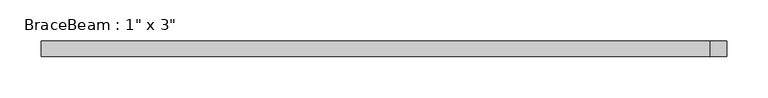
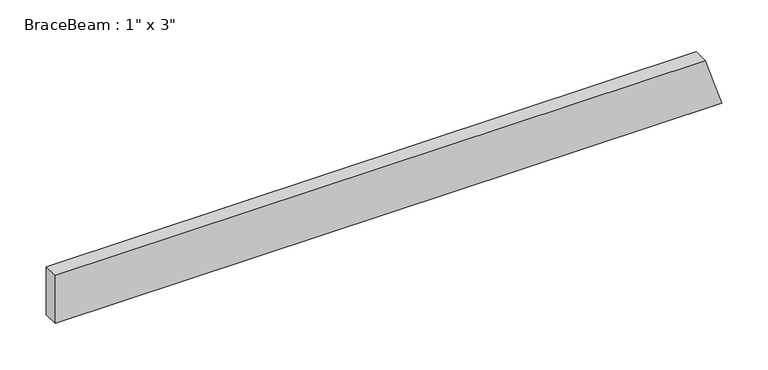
"""IFC4 building model written with IfcOpenShell, lengths in millimetres: beam geometry."""

from ifc_helpers import new_model, si_unit, origin, place, context, project, spatial, faceted_brep, source, transform, mapped, element, save


def beam_464ecb02(model_context):
    return source(origin(), model_context, "Body", "Brep", [
        faceted_brep([(-411.2393097, 9.525, -31.75), (419.9537872, 9.525, -31.75), (419.9537872, -9.525, -31.75), (-411.2393097, -9.525, -31.75), (409.59094, -9.525, 0.0), (399.2280927, -9.525, 31.75), (-411.2393097, -9.525, 31.75), (399.2280927, 9.525, 31.75), (-411.2393097, 9.525, 31.75), (409.59094, 9.525, 0.0)], [[[0, 1, 2, 3]], [[3, 2, 4, 5, 6]], [[6, 5, 7, 8]], [[8, 7, 9, 1, 0]], [[8, 0, 3, 6]], [[5, 4, 2, 1, 9, 7]]]),
    ])


if __name__ == "__main__":
    model = new_model("IFC4")
    model_context = context("Model", 3, world=origin())
    ifc_project = project(units=[si_unit("LENGTHUNIT", "METRE", prefix="MILLI")], contexts=[model_context])
    site = spatial("IfcSite", under=ifc_project)
    building = spatial("IfcBuilding", under=site)
    placement = place(None, origin())
    beam_shape = beam_464ecb02(model_context)
    element("IfcBeam", 1, ObjectType="BraceBeam : 1\" x 3\"", at=placement, inside=building, context=model_context, shape_type="MappedRepresentation", body=[
        mapped(beam_shape, transform((0.0, 0.0, 0.0), x_axis=(1.0, 0.0, 0.0), y_axis=(0.0, 1.0, 0.0), z_axis=(0.0, 0.0, 1.0))),
    ])
    save(model, "model.ifc")
